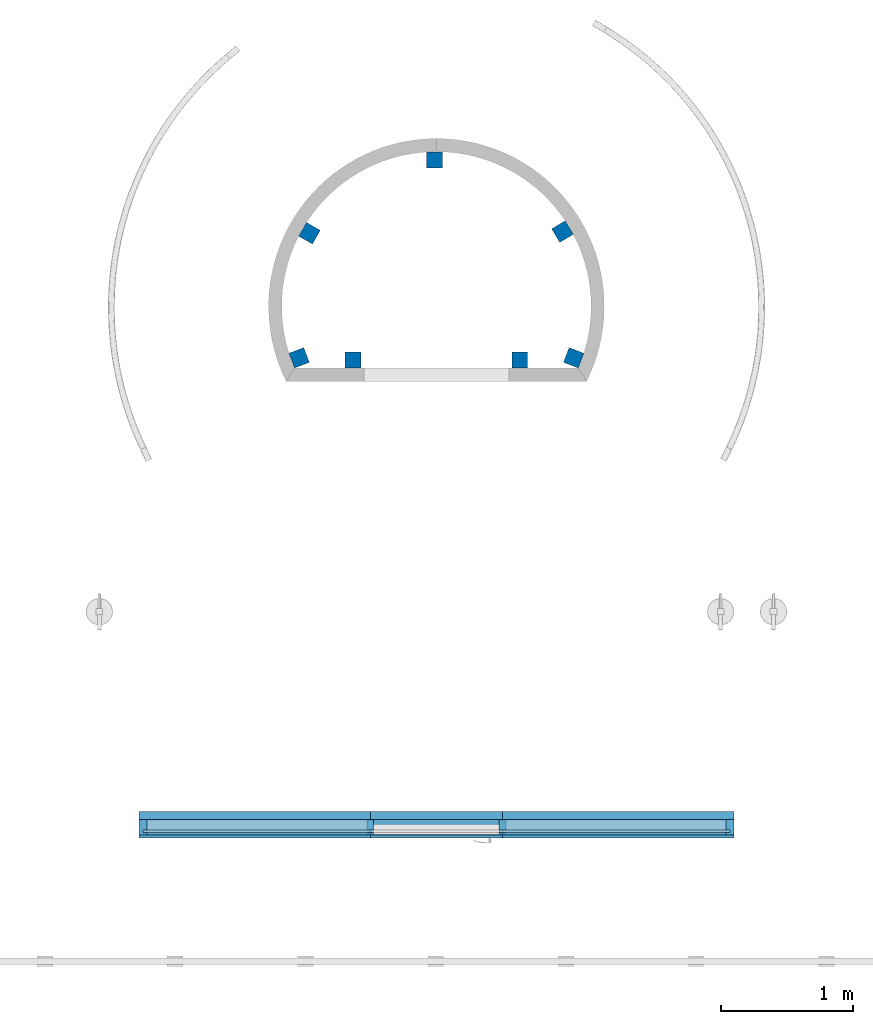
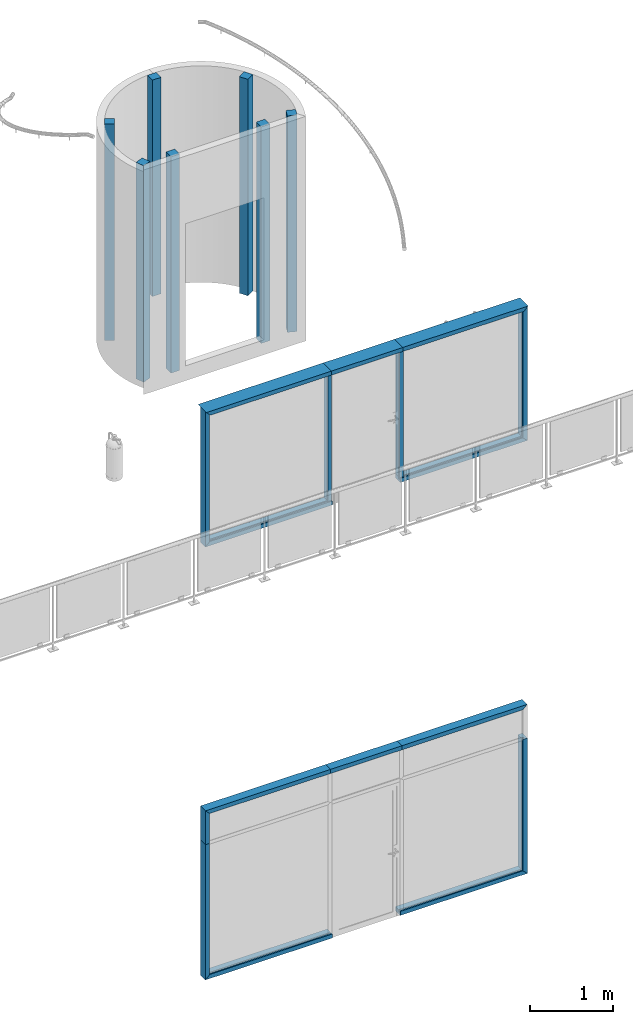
# One storey, part 1 of 7: 17 members, 7 columns, 2 elements without a shape of their own.
"""IFC4 building model written with IfcOpenShell, lengths in millimetres."""

from ifc_helpers import new_model, entity, si_unit, converted_unit, derived_unit, direction, frame, origin_with_axes, place, context, subcontext, project, spatial, line, indexed_curve, outline, extrude, clip, halfspace, material, material_profile, profile_set, type_object, element, aggregate, save


model = new_model("IFC4")

# Units and contexts
model_context = context("Model", 3, precision=0.01, world=origin_with_axes(), true_north=direction((0.0, 1.0)))
body_context = subcontext(model_context, "Body", "Model", "MODEL_VIEW")
ifc_project = project(units=[si_unit("LENGTHUNIT", "METRE", prefix="MILLI"), si_unit("AREAUNIT", "SQUARE_METRE"), si_unit("VOLUMEUNIT", "CUBIC_METRE"), converted_unit("PLANEANGLEUNIT", "DEGREE", entity("IfcPlaneAngleMeasure", 0.0174532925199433), si_unit("PLANEANGLEUNIT", "RADIAN"), dimensions=[0, 0, 0, 0, 0, 0, 0]), converted_unit("TIMEUNIT", "Year", entity("IfcTimeMeasure", 31557600.0), si_unit("TIMEUNIT", "SECOND"), dimensions=[0, 0, 1, 0, 0, 0, 0]), si_unit("MASSUNIT", "GRAM", prefix="KILO"), si_unit("THERMODYNAMICTEMPERATUREUNIT", "DEGREE_CELSIUS"), si_unit("LUMINOUSINTENSITYUNIT", "LUMEN"), si_unit("ENERGYUNIT", "JOULE", prefix="MEGA"), derived_unit("THERMALCONDUCTANCEUNIT", [(si_unit("POWERUNIT", "WATT"), 1), (si_unit("LENGTHUNIT", "METRE"), -1), (si_unit("THERMODYNAMICTEMPERATUREUNIT", "KELVIN"), -1)]), derived_unit("SPECIFICHEATCAPACITYUNIT", [(si_unit("ENERGYUNIT", "JOULE"), 1), (si_unit("MASSUNIT", "GRAM", prefix="KILO"), -1), (si_unit("THERMODYNAMICTEMPERATUREUNIT", "KELVIN"), -1)]), derived_unit("MASSDENSITYUNIT", [(si_unit("MASSUNIT", "GRAM", prefix="KILO"), 1), (si_unit("VOLUMEUNIT", "CUBIC_METRE"), -1)])], contexts=[model_context])

# Site, building, storey
site_placement = place(None, origin_with_axes())
site = spatial("IfcSite", under=ifc_project, at=site_placement, Name="Exteriér", CompositionType="ELEMENT")
building_placement = place(site_placement, origin_with_axes())
building = spatial("IfcBuilding", under=site, at=building_placement, Name="Univerzitní lezecké centrum", CompositionType="ELEMENT")
storey_placement = place(building_placement, frame((0.0, 0.0, 6400.0), z_axis=(0.0, 0.0, 1.0), x_axis=(1.0, 0.0, 0.0)))
storey = spatial("IfcBuildingStorey", under=building, at=storey_placement, Name="3.NP", CompositionType="ELEMENT", Elevation=6400.0)

# Columns
ifc_material_1 = material(Name="OBECNÉ - HRUBÉ STAVEBNÍ KONSTRUKCE")
ifc_material_profile_1 = material_profile(ifc_material_1, outline(indexed_curve([(-60.00000007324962, -60.00000007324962), (60.00000007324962, -60.00000007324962), (60.00000007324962, 60.00000007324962), (-60.00000007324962, 60.00000007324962)], segments=[line(1, 2, 3, 4, 1)])), Name="OBECNÉ - HRUBÉ STAVEBNÍ KONSTRUKCE")
ifc_profile_set_1 = profile_set([ifc_material_profile_1])
column_type = type_object("IfcColumnType", Name="Uživatelský profil 120 x 120", PredefinedType="COLUMN")
column_1_placement = place(storey_placement, frame((1411.539252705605, 3310.94092530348, -119.9999999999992), z_axis=(0.0, 0.0, 1.0), x_axis=(0.9342555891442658, 0.3566041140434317, 0.0)))
element("IfcColumn", 1, at=column_1_placement, inside=storey, type_object=column_type, material=ifc_profile_set_1, Name="S006", PredefinedType="COLUMN", context=body_context, shape_type="SweptSolid", body=[
    extrude(outline(indexed_curve([(-60.00000007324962, -60.00000007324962), (60.00000007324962, -60.00000007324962), (60.00000007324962, 60.00000007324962), (-60.00000007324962, 60.00000007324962)], segments=[line(1, 2, 3, 4, 1)])), origin_with_axes(), (0.0, 0.0, 1.0), 3200.000000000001),
])
ifc_material_profile_2 = material_profile(ifc_material_1, outline(indexed_curve([(-60.00000010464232, -60.00000010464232), (60.00000010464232, -60.00000010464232), (60.00000010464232, 60.00000010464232), (-60.00000010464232, 60.00000010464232)], segments=[line(1, 2, 3, 4, 1)])), Name="OBECNÉ - HRUBÉ STAVEBNÍ KONSTRUKCE")
ifc_profile_set_2 = profile_set([ifc_material_profile_2])
column_2_placement = place(storey_placement, frame((2434.703625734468, 4807.584161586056, -119.9999999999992), z_axis=(0.0, 0.0, 1.0), x_axis=(1.0, 0.0, 0.0)))
element("IfcColumn", 2, at=column_2_placement, inside=storey, type_object=column_type, material=ifc_profile_set_2, Name="S006", PredefinedType="COLUMN", context=body_context, shape_type="SweptSolid", body=[
    extrude(outline(indexed_curve([(-60.00000010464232, -60.00000010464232), (60.00000010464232, -60.00000010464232), (60.00000010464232, 60.00000010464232), (-60.00000010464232, 60.00000010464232)], segments=[line(1, 2, 3, 4, 1)])), origin_with_axes(), (0.0, 0.0, 1.0), 3200.000000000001),
])
ifc_material_profile_3 = material_profile(ifc_material_1, outline(indexed_curve([(-60.00000007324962, -60.00000007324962), (60.00000007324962, -60.00000007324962), (60.00000007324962, 60.00000007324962), (-60.00000007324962, 60.00000007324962)], segments=[line(1, 2, 3, 4, 1)])), Name="OBECNÉ - HRUBÉ STAVEBNÍ KONSTRUKCE")
ifc_profile_set_3 = profile_set([ifc_material_profile_3])
column_3_placement = place(storey_placement, frame((3488.141807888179, 3310.881584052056, -119.9999999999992), z_axis=(0.0, 0.0, 1.0), x_axis=(0.9342352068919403, -0.3566575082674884, 0.0)))
element("IfcColumn", 3, at=column_3_placement, inside=storey, type_object=column_type, material=ifc_profile_set_3, Name="S006", PredefinedType="COLUMN", context=body_context, shape_type="SweptSolid", body=[
    extrude(outline(indexed_curve([(-60.00000007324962, -60.00000007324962), (60.00000007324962, -60.00000007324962), (60.00000007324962, 60.00000007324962), (-60.00000007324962, 60.00000007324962)], segments=[line(1, 2, 3, 4, 1)])), frame((0.0, 0.0, 0.0), z_axis=(0.0, 0.0, -1.0), x_axis=(-1.0, 0.0, 0.0)), (0.0, 0.0, -1.0), 3200.000000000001),
])
ifc_material_profile_4 = material_profile(ifc_material_1, outline(indexed_curve([(-60.00000010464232, -60.00000010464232), (60.00000010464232, -60.00000010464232), (60.00000010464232, 60.00000010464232), (-60.00000010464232, 60.00000010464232)], segments=[line(1, 2, 3, 4, 1)])), Name="OBECNÉ - HRUBÉ STAVEBNÍ KONSTRUKCE")
ifc_profile_set_4 = profile_set([ifc_material_profile_4])
column_4_placement = place(storey_placement, frame((1489.53625742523, 4253.287418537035, -119.9999999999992), z_axis=(0.0, 0.0, 1.0), x_axis=(0.867866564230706, -0.4967973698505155, 0.0)))
element("IfcColumn", 4, at=column_4_placement, inside=storey, type_object=column_type, material=ifc_profile_set_4, Name="S007", PredefinedType="COLUMN", context=body_context, shape_type="SweptSolid", body=[
    extrude(outline(indexed_curve([(-60.00000010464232, -60.00000010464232), (60.00000010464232, -60.00000010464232), (60.00000010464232, 60.00000010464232), (-60.00000010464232, 60.00000010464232)], segments=[line(1, 2, 3, 4, 1)])), origin_with_axes(), (0.0, 0.0, 1.0), 3200.000000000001),
])
ifc_material_profile_5 = material_profile(ifc_material_1, outline(indexed_curve([(-60.00000010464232, -60.00000010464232), (60.00000010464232, -60.00000010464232), (60.00000010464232, 60.00000010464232), (-60.00000010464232, 60.00000010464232)], segments=[line(1, 2, 3, 4, 1)])), Name="OBECNÉ - HRUBÉ STAVEBNÍ KONSTRUKCE")
ifc_profile_set_5 = profile_set([ifc_material_profile_5])
column_5_placement = place(storey_placement, frame((3079.966389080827, 3293.405869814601, -119.9999999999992), z_axis=(0.0, 0.0, 1.0), x_axis=(0.9999999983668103, -5.715224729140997e-05, 0.0)))
element("IfcColumn", 5, at=column_5_placement, inside=storey, type_object=column_type, material=ifc_profile_set_5, Name="S006", PredefinedType="COLUMN", context=body_context, shape_type="SweptSolid", body=[
    extrude(outline(indexed_curve([(-60.00000010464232, -60.00000010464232), (60.00000010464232, -60.00000010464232), (60.00000010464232, 60.00000010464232), (-60.00000010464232, 60.00000010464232)], segments=[line(1, 2, 3, 4, 1)])), frame((0.0, 0.0, 0.0), z_axis=(0.0, 0.0, -1.0), x_axis=(-1.0, 0.0, 0.0)), (0.0, 0.0, -1.0), 3200.000000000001),
])
ifc_material_profile_6 = material_profile(ifc_material_1, outline(indexed_curve([(-60.00000010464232, -60.00000010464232), (60.00000010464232, -60.00000010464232), (60.00000010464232, 60.00000010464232), (-60.00000010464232, 60.00000010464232)], segments=[line(1, 2, 3, 4, 1)])), Name="OBECNÉ - HRUBÉ STAVEBNÍ KONSTRUKCE")
ifc_profile_set_6 = profile_set([ifc_material_profile_6])
column_6_placement = place(storey_placement, frame((3403.472159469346, 4265.511352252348, -119.9999999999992), z_axis=(0.0, 0.0, 1.0), x_axis=(0.8580664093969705, 0.5135387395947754, 0.0)))
element("IfcColumn", 6, at=column_6_placement, inside=storey, type_object=column_type, material=ifc_profile_set_6, Name="S008", PredefinedType="COLUMN", context=body_context, shape_type="SweptSolid", body=[
    extrude(outline(indexed_curve([(-60.00000010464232, -60.00000010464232), (60.00000010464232, -60.00000010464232), (60.00000010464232, 60.00000010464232), (-60.00000010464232, 60.00000010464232)], segments=[line(1, 2, 3, 4, 1)])), origin_with_axes(), (0.0, 0.0, 1.0), 3200.000000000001),
])
ifc_material_profile_7 = material_profile(ifc_material_1, outline(indexed_curve([(-60.00000010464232, -60.00000010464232), (60.00000010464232, -60.00000010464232), (60.00000010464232, 60.00000010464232), (-60.00000010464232, 60.00000010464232)], segments=[line(1, 2, 3, 4, 1)])), Name="OBECNÉ - HRUBÉ STAVEBNÍ KONSTRUKCE")
ifc_profile_set_7 = profile_set([ifc_material_profile_7])
column_7_placement = place(storey_placement, frame((1819.713671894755, 3293.441882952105, -119.9999999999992), z_axis=(0.0, 0.0, 1.0), x_axis=(1.0, 0.0, 0.0)))
element("IfcColumn", 7, at=column_7_placement, inside=storey, type_object=column_type, material=ifc_profile_set_7, Name="S006", PredefinedType="COLUMN", context=body_context, shape_type="SweptSolid", body=[
    extrude(outline(indexed_curve([(-60.00000010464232, -60.00000010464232), (60.00000010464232, -60.00000010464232), (60.00000010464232, 60.00000010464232), (-60.00000010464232, 60.00000010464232)], segments=[line(1, 2, 3, 4, 1)])), origin_with_axes(), (0.0, 0.0, 1.0), 3200.000000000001),
])

# Curtain wall, members
curtain_wall_type = type_object("IfcCurtainWallType", Name="Typ lehkého obvodového pláště", PredefinedType="NOTDEFINED")
curtain_wall_1_placement = place(storey_placement, frame((1075.010273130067, -270.0000000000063, -6400.000000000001), z_axis=(0.0, 0.0, 1.0), x_axis=(1.0, 0.0, 0.0)))
curtain_wall_1 = element("IfcCurtainWall", 8, at=curtain_wall_1_placement, inside=storey, type_object=curtain_wall_type, Name="LOP06", PredefinedType="NOTDEFINED")
ifc_material_2 = material(Name="Hliník")
member_type_1 = type_object("IfcMemberType", Name="60 x 120", PredefinedType="NOTDEFINED")
member_1_placement = place(curtain_wall_1_placement, frame((-875.0833138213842, 0.0, 0.0), z_axis=(1.0, 0.0, 0.0), x_axis=(0.0, 0.0, 1.0)))
member_1 = element("IfcMember", 9, at=member_1_placement, type_object=member_type_1, material=ifc_material_2, Name="RO246", PredefinedType="NOTDEFINED", context=body_context, shape_type="Clipping", body=[
    clip(extrude(outline(indexed_curve([(30.0, -9.999999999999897), (30.0, 10.00000000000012), (60.0, 10.00000000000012), (60.00000000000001, 30.00000000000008), (0.0, 30.00000000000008), (0.0, -89.99999999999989), (59.99999999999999, -89.99999999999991), (60.0, -9.999999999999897)], segments=[line(1, 2, 3, 4, 5, 6, 7, 8, 1)])), origin_with_axes(), (0.0, 0.0, 1.0), 1775.166627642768), halfspace(frame((0.0, 0.0, 0.0), z_axis=(-0.7071067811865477, 0.0, 0.7071067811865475), x_axis=(0.0, -1.0, 0.0)), True)),
])
member_2_placement = place(curtain_wall_1_placement, frame((-875.0833138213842, 0.0, 0.0), z_axis=(0.0, 0.0, 1.0), x_axis=(-1.0, 0.0, 0.0)))
member_2 = element("IfcMember", 10, at=member_2_placement, type_object=member_type_1, material=ifc_material_2, Name="RO246", PredefinedType="NOTDEFINED", context=body_context, shape_type="Clipping", body=[
    clip(extrude(outline(indexed_curve([(-30.0, -10.00000000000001), (-60.0, -10.00000000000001), (-60.0, -90.00000000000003), (0.0, -90.0), (0.0, 30.00000000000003), (-60.0, 29.99999999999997), (-60.0, 10.00000000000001), (-30.0, 10.00000000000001)], segments=[line(1, 2, 3, 4, 5, 6, 7, 8, 1)])), origin_with_axes(), (0.0, 0.0, 1.0), 1999.999985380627), halfspace(frame((0.0, 0.0, 0.0), z_axis=(0.707106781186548, 0.0, 0.7071067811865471), x_axis=(0.0, -1.0, 0.0)), True)),
])
member_3_placement = place(curtain_wall_1_placement, frame((1875.083313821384, 0.0, 0.0), z_axis=(1.0, 0.0, 0.0), x_axis=(0.0, 0.0, 1.0)))
member_3 = element("IfcMember", 11, at=member_3_placement, type_object=member_type_1, material=ifc_material_2, Name="RO246", PredefinedType="NOTDEFINED", context=body_context, shape_type="Clipping", body=[
    clip(extrude(outline(indexed_curve([(30.0, -9.999999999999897), (30.0, 10.00000000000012), (60.0, 10.00000000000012), (60.00000000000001, 30.00000000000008), (0.0, 30.00000000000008), (0.0, -89.99999999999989), (59.99999999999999, -89.99999999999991), (60.0, -9.999999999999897)], segments=[line(1, 2, 3, 4, 5, 6, 7, 8, 1)])), frame((0.0, 0.0, -24.99999999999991), z_axis=(0.0, 0.0, 1.0), x_axis=(1.0, 0.0, 0.0)), (0.0, 0.0, 1.0), 1775.0), halfspace(frame((875.0, 0.0, 874.9999999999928), z_axis=(-0.7071067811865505, 0.0, -0.7071067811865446), x_axis=(0.0, 1.0, 0.0)), True)),
])
member_4_placement = place(curtain_wall_1_placement, frame((3625.083313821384, 0.0, 0.0), z_axis=(0.0, 0.0, 1.0), x_axis=(-1.0, 0.0, 0.0)))
member_4 = element("IfcMember", 12, at=member_4_placement, type_object=member_type_1, material=ifc_material_2, Name="RO246", PredefinedType="NOTDEFINED", context=body_context, shape_type="Clipping", body=[
    clip(extrude(outline(indexed_curve([(30.00000000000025, -10.00000000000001), (30.00000000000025, 10.00000000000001), (59.99999999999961, 10.00000000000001), (59.99999999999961, 30.00000000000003), (0.0, 30.00000000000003), (0.0, -90.0), (59.99999999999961, -89.99999999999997), (59.99999999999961, -10.00000000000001)], segments=[line(1, 2, 3, 4, 5, 6, 7, 8, 1)])), origin_with_axes(), (0.0, 0.0, 1.0), 1999.999985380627), halfspace(frame((0.0, 0.0, 0.0), z_axis=(-0.7071067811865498, 0.0, 0.7071067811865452), x_axis=(0.0, -1.0, 0.0)), True)),
])
member_5_placement = place(curtain_wall_1_placement, frame((-875.0833138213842, 0.0, 1999.999935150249), z_axis=(0.0, 0.0, 1.0), x_axis=(-1.0, 0.0, 0.0)))
member_5 = element("IfcMember", 13, at=member_5_placement, type_object=member_type_1, material=ifc_material_2, Name="RO246", PredefinedType="NOTDEFINED", context=body_context, shape_type="Clipping", body=[
    clip(extrude(outline(indexed_curve([(-30.0, -10.00000000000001), (-60.0, -10.00000000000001), (-60.0, -90.00000000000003), (0.0, -90.0), (0.0, 30.00000000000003), (-60.0, 29.99999999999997), (-60.0, 10.00000000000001), (-30.0, 10.00000000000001)], segments=[line(1, 2, 3, 4, 5, 6, 7, 8, 1)])), origin_with_axes(), (0.0, 0.0, 1.0), 499.9999963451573), halfspace(frame((-249.9999981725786, 0.0, 249.9999981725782), z_axis=(0.7071067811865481, 0.0, -0.707106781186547), x_axis=(0.0, 1.0, 0.0)), True)),
])
member_6_placement = place(curtain_wall_1_placement, frame((-875.0833138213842, 0.0, 2499.999918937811), z_axis=(1.0, 0.0, 0.0), x_axis=(0.0, 0.0, 1.0)))
member_6 = element("IfcMember", 14, at=member_6_placement, type_object=member_type_1, material=ifc_material_2, Name="RO246", PredefinedType="NOTDEFINED", context=body_context, shape_type="Clipping", body=[
    clip(extrude(outline(indexed_curve([(-29.9999999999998, -9.999999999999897), (-60.00000000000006, -9.999999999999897), (-60.00000000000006, -89.99999999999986), (0.0, -89.99999999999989), (0.0, 30.00000000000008), (-60.00000000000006, 30.00000000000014), (-60.00000000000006, 10.00000000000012), (-29.9999999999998, 10.00000000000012)], segments=[line(1, 2, 3, 4, 5, 6, 7, 8, 1)])), origin_with_axes(), (0.0, 0.0, 1.0), 1750.166627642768), halfspace(frame((0.0, 0.0, 0.0), z_axis=(0.7071067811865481, 0.0, 0.707106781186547), x_axis=(0.0, -1.0, 0.0)), True)),
])
member_7_placement = place(curtain_wall_1_placement, frame((875.0833138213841, 0.0, 2499.999918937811), z_axis=(1.0, 0.0, 0.0), x_axis=(0.0, 0.0, 1.0)))
member_7 = element("IfcMember", 15, at=member_7_placement, type_object=member_type_1, material=ifc_material_2, Name="RO246", PredefinedType="NOTDEFINED", context=body_context, shape_type="SweptSolid", body=[
    extrude(outline(indexed_curve([(-29.9999999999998, -9.999999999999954), (-60.00000000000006, -9.999999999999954), (-60.00000000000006, -89.99999999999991), (0.0, -89.99999999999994), (0.0, 30.00000000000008), (-60.00000000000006, 30.00000000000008), (-60.00000000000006, 10.00000000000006), (-29.9999999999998, 10.00000000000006)], segments=[line(1, 2, 3, 4, 5, 6, 7, 8, 1)])), origin_with_axes(), (0.0, 0.0, 1.0), 1000.0),
])
member_8_placement = place(curtain_wall_1_placement, frame((1875.083313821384, 0.0, 2499.999918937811), z_axis=(1.0, 0.0, 0.0), x_axis=(0.0, 0.0, 1.0)))
member_8 = element("IfcMember", 16, at=member_8_placement, type_object=member_type_1, material=ifc_material_2, Name="RO246", PredefinedType="NOTDEFINED", context=body_context, shape_type="Clipping", body=[
    clip(extrude(outline(indexed_curve([(-29.9999999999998, -9.999999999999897), (-60.00000000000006, -9.999999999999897), (-60.00000000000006, -89.99999999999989), (0.0, -89.99999999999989), (0.0, 30.00000000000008), (-60.00000000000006, 30.00000000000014), (-60.00000000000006, 10.00000000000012), (-29.9999999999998, 10.00000000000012)], segments=[line(1, 2, 3, 4, 5, 6, 7, 8, 1)])), origin_with_axes(), (0.0, 0.0, 1.0), 1750.0), halfspace(frame((-874.9999999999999, 0.0, 874.999999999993), z_axis=(0.7071067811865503, 0.0, -0.7071067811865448), x_axis=(0.0, 1.0, 0.0)), True)),
])
aggregate(curtain_wall_1, [member_1, member_2, member_3, member_4, member_5, member_6, member_7, member_8])

curtain_wall_2_placement = place(storey_placement, frame((1074.697880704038, -270.0000000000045, 0.0), z_axis=(0.0, 0.0, 1.0), x_axis=(1.0, 0.0, 0.0)))
curtain_wall_2 = element("IfcCurtainWall", 17, at=curtain_wall_2_placement, inside=storey, type_object=curtain_wall_type, Name="LOP04", PredefinedType="NOTDEFINED")
member_9_placement = place(curtain_wall_2_placement, frame((-875.0833138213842, 0.0, 0.0), z_axis=(1.0, 0.0, 0.0), x_axis=(0.0, 0.0, 1.0)))
member_9 = element("IfcMember", 18, at=member_9_placement, type_object=member_type_1, material=ifc_material_2, Name="RO246", PredefinedType="NOTDEFINED", context=body_context, shape_type="Clipping", body=[
    clip(extrude(outline(indexed_curve([(30.00000000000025, -9.999999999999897), (30.00000000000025, 10.00000000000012), (59.99999999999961, 10.00000000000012), (59.99999999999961, 30.00000000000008), (0.0, 30.00000000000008), (0.0, -89.99999999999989), (59.99999999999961, -89.99999999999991), (59.99999999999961, -9.999999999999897)], segments=[line(1, 2, 3, 4, 5, 6, 7, 8, 1)])), origin_with_axes(), (0.0, 0.0, 1.0), 1775.166627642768), halfspace(frame((0.0, 0.0, 0.0), z_axis=(-0.7071067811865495, 0.0, 0.7071067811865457), x_axis=(0.0, -1.0, 0.0)), True)),
])
member_10_placement = place(curtain_wall_2_placement, frame((-875.0833138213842, 0.0, 0.0), z_axis=(0.0, 0.0, 1.0), x_axis=(-1.0, 0.0, 0.0)))
member_10 = element("IfcMember", 19, at=member_10_placement, type_object=member_type_1, material=ifc_material_2, Name="RO246", PredefinedType="NOTDEFINED", context=body_context, shape_type="Clipping", body=[
    clip(clip(extrude(outline(indexed_curve([(-30.0, -10.00000000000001), (-60.0, -10.00000000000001), (-60.0, -90.00000000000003), (0.0, -90.0), (0.0, 29.99999999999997), (-60.0, 29.99999999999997), (-60.0, 10.00000000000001), (-30.0, 10.00000000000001)], segments=[line(1, 2, 3, 4, 5, 6, 7, 8, 1)])), origin_with_axes(), (0.0, 0.0, 1.0), 1999.999978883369), halfspace(frame((-999.9999894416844, 0.0, 999.9999894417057), z_axis=(0.70710678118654, 0.0, -0.707106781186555), x_axis=(0.0, 1.0, 0.0)), True)), halfspace(frame((0.0, 0.0, 0.0), z_axis=(0.7071067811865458, 0.0, 0.7071067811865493), x_axis=(0.0, -1.0, 0.0)), True)),
])
member_11_placement = place(curtain_wall_2_placement, frame((3625.083313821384, 0.0, 0.0), z_axis=(0.0, 0.0, 1.0), x_axis=(-1.0, 0.0, 0.0)))
member_11 = element("IfcMember", 20, at=member_11_placement, type_object=member_type_1, material=ifc_material_2, Name="RO246", PredefinedType="NOTDEFINED", context=body_context, shape_type="Clipping", body=[
    clip(clip(extrude(outline(indexed_curve([(30.00000000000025, -10.00000000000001), (30.00000000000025, 10.00000000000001), (59.99999999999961, 10.00000000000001), (59.99999999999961, 30.00000000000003), (0.0, 29.99999999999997), (0.0, -90.0), (59.99999999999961, -89.99999999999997), (59.99999999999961, -10.00000000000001)], segments=[line(1, 2, 3, 4, 5, 6, 7, 8, 1)])), origin_with_axes(), (0.0, 0.0, 1.0), 1999.999978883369), halfspace(frame((999.9999894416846, 0.0, 999.9999894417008), z_axis=(-0.7071067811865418, 0.0, -0.7071067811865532), x_axis=(0.0, 1.0, 0.0)), True)), halfspace(frame((0.0, 0.0, 0.0), z_axis=(-0.7071067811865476, 0.0, 0.7071067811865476), x_axis=(0.0, -1.0, 0.0)), True)),
])
member_12_placement = place(curtain_wall_2_placement, frame((1875.083313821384, 0.0, 0.0), z_axis=(1.0, 0.0, 0.0), x_axis=(0.0, 0.0, 1.0)))
member_12 = element("IfcMember", 21, at=member_12_placement, type_object=member_type_1, material=ifc_material_2, Name="RO246", PredefinedType="NOTDEFINED", context=body_context, shape_type="Clipping", body=[
    clip(extrude(outline(indexed_curve([(30.00000000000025, -9.999999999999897), (30.00000000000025, 10.00000000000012), (59.99999999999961, 10.00000000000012), (59.99999999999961, 30.00000000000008), (0.0, 30.00000000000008), (0.0, -89.99999999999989), (59.99999999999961, -89.99999999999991), (59.99999999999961, -9.999999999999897)], segments=[line(1, 2, 3, 4, 5, 6, 7, 8, 1)])), frame((0.0, 0.0, -24.99999999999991), z_axis=(0.0, 0.0, 1.0), x_axis=(1.0, 0.0, 0.0)), (0.0, 0.0, 1.0), 1775.0), halfspace(frame((875.0000000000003, 0.0, 874.9999999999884), z_axis=(-0.7071067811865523, 0.0, -0.7071067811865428), x_axis=(0.0, 1.0, 0.0)), True)),
])
member_type_2 = type_object("IfcMemberType", Name="50 x 100", PredefinedType="NOTDEFINED")
member_13_placement = place(curtain_wall_2_placement, frame((875.0833138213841, 0.0, 0.0), z_axis=(0.0, 0.0, 1.0), x_axis=(-1.0, 0.0, 0.0)))
member_13 = element("IfcMember", 22, at=member_13_placement, type_object=member_type_2, material=ifc_material_2, Name="RS026", PredefinedType="NOTDEFINED", context=body_context, shape_type="SweptSolid", body=[
    extrude(outline(indexed_curve([(0.0, -10.00000000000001), (-24.99999999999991, -10.00000000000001), (-24.99999999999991, -85.00000000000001), (24.99999999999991, -85.00000000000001), (24.99999999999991, -10.00000000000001)], segments=[line(1, 2, 3, 4, 5, 1)])), frame((0.0, 0.0, 59.99999999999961), z_axis=(0.0, 0.0, 1.0), x_axis=(1.0, 0.0, 0.0)), (0.0, 0.0, 1.0), 1879.999978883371),
    extrude(outline(indexed_curve([(-24.99999999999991, 10.00000000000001), (0.0, 10.00000000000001), (24.99999999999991, 10.00000000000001), (24.99999999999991, 15.00000000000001), (-24.99999999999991, 15.00000000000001)], segments=[line(1, 2, 3, 4, 5, 1)])), frame((0.0, 0.0, 59.99999999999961), z_axis=(0.0, 0.0, 1.0), x_axis=(1.0, 0.0, 0.0)), (0.0, 0.0, 1.0), 1879.999978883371),
])
member_14_placement = place(curtain_wall_2_placement, frame((1875.083313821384, 0.0, 0.0), z_axis=(0.0, 0.0, 1.0), x_axis=(-1.0, 0.0, 0.0)))
member_14 = element("IfcMember", 23, at=member_14_placement, type_object=member_type_2, material=ifc_material_2, Name="RS026", PredefinedType="NOTDEFINED", context=body_context, shape_type="SweptSolid", body=[
    extrude(outline(indexed_curve([(0.0, -10.00000000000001), (-24.99999999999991, -10.00000000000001), (-24.99999999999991, -85.00000000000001), (24.99999999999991, -85.00000000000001), (24.99999999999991, -10.00000000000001)], segments=[line(1, 2, 3, 4, 5, 1)])), frame((0.0, 0.0, 59.99999999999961), z_axis=(0.0, 0.0, 1.0), x_axis=(1.0, 0.0, 0.0)), (0.0, 0.0, 1.0), 1879.999978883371),
    extrude(outline(indexed_curve([(-24.99999999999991, 10.00000000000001), (0.0, 10.00000000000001), (24.99999999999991, 10.00000000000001), (24.99999999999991, 15.00000000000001), (-24.99999999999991, 15.00000000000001)], segments=[line(1, 2, 3, 4, 5, 1)])), frame((0.0, 0.0, 59.99999999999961), z_axis=(0.0, 0.0, 1.0), x_axis=(1.0, 0.0, 0.0)), (0.0, 0.0, 1.0), 1879.999978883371),
])
member_type_3 = type_object("IfcMemberType", Name="Rám obrysu 60 x 200", PredefinedType="NOTDEFINED")
member_15_placement = place(curtain_wall_2_placement, frame((-875.0833138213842, 0.0, 1999.999978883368), z_axis=(1.0, 0.0, 0.0), x_axis=(0.0, 0.0, 1.0)))
member_15 = element("IfcMember", 24, at=member_15_placement, type_object=member_type_3, material=ifc_material_2, Name="RO264", PredefinedType="NOTDEFINED", context=body_context, shape_type="Clipping", body=[
    clip(extrude(outline(indexed_curve([(-29.99999999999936, -9.999999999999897), (-60.0000000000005, -9.999999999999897), (-60.0000000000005, -149.9999999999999), (0.0, -149.9999999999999), (0.0, 50.0000000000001), (-60.0000000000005, 50.0000000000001), (-60.0000000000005, 10.00000000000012), (-29.99999999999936, 10.00000000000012)], segments=[line(1, 2, 3, 4, 5, 6, 7, 8, 1)])), origin_with_axes(), (0.0, 0.0, 1.0), 1750.166627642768), halfspace(frame((0.0, 0.0, 0.0), z_axis=(0.7071067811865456, 0.0, 0.7071067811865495), x_axis=(0.0, -1.0, 0.0)), True)),
])
member_16_placement = place(curtain_wall_2_placement, frame((875.0833138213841, 0.0, 1999.999978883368), z_axis=(1.0, 0.0, 0.0), x_axis=(0.0, 0.0, 1.0)))
member_16 = element("IfcMember", 25, at=member_16_placement, type_object=member_type_3, material=ifc_material_2, Name="RO263", PredefinedType="NOTDEFINED", context=body_context, shape_type="SweptSolid", body=[
    extrude(outline(indexed_curve([(-29.99999999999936, -9.999999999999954), (-60.0000000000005, -9.999999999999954), (-60.0000000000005, -149.9999999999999), (0.0, -149.9999999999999), (0.0, 50.0000000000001), (-60.0000000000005, 50.0000000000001), (-60.0000000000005, 10.00000000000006), (-29.99999999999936, 10.00000000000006)], segments=[line(1, 2, 3, 4, 5, 6, 7, 8, 1)])), origin_with_axes(), (0.0, 0.0, 1.0), 1000.0),
])
member_17_placement = place(curtain_wall_2_placement, frame((1875.083313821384, 0.0, 1999.999978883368), z_axis=(1.0, 0.0, 0.0), x_axis=(0.0, 0.0, 1.0)))
member_17 = element("IfcMember", 26, at=member_17_placement, type_object=member_type_3, material=ifc_material_2, Name="RO262", PredefinedType="NOTDEFINED", context=body_context, shape_type="Clipping", body=[
    clip(extrude(outline(indexed_curve([(-29.99999999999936, -9.999999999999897), (-60.0000000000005, -9.999999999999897), (-60.0000000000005, -149.9999999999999), (0.0, -149.9999999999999), (0.0, 50.0000000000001), (-60.0000000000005, 50.0000000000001), (-60.0000000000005, 10.00000000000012), (-29.99999999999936, 10.00000000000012)], segments=[line(1, 2, 3, 4, 5, 6, 7, 8, 1)])), origin_with_axes(), (0.0, 0.0, 1.0), 1750.0), halfspace(frame((-874.9999999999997, 0.0, 874.9999999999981), z_axis=(0.7071067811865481, 0.0, -0.7071067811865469), x_axis=(0.0, 1.0, 0.0)), True)),
])
aggregate(curtain_wall_2, [member_9, member_10, member_13, member_11, member_12, member_14, member_15, member_16, member_17])

save(model, "model.ifc")
